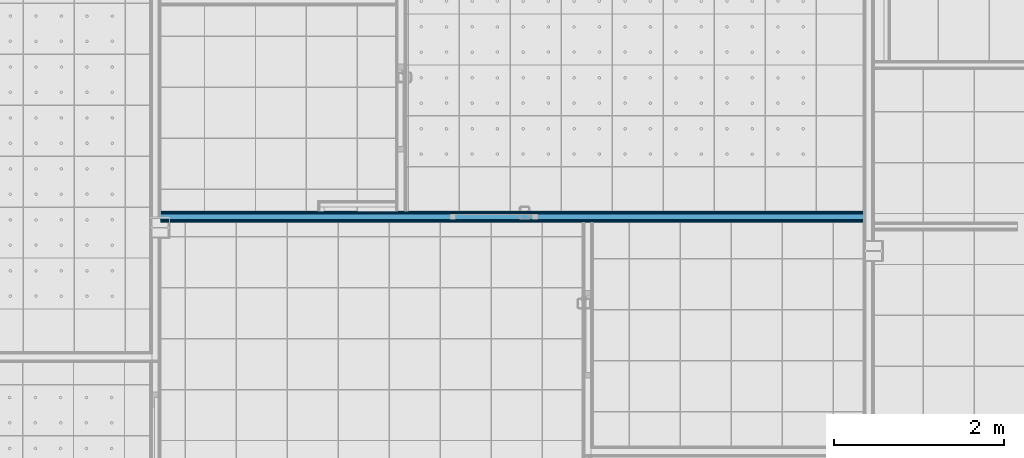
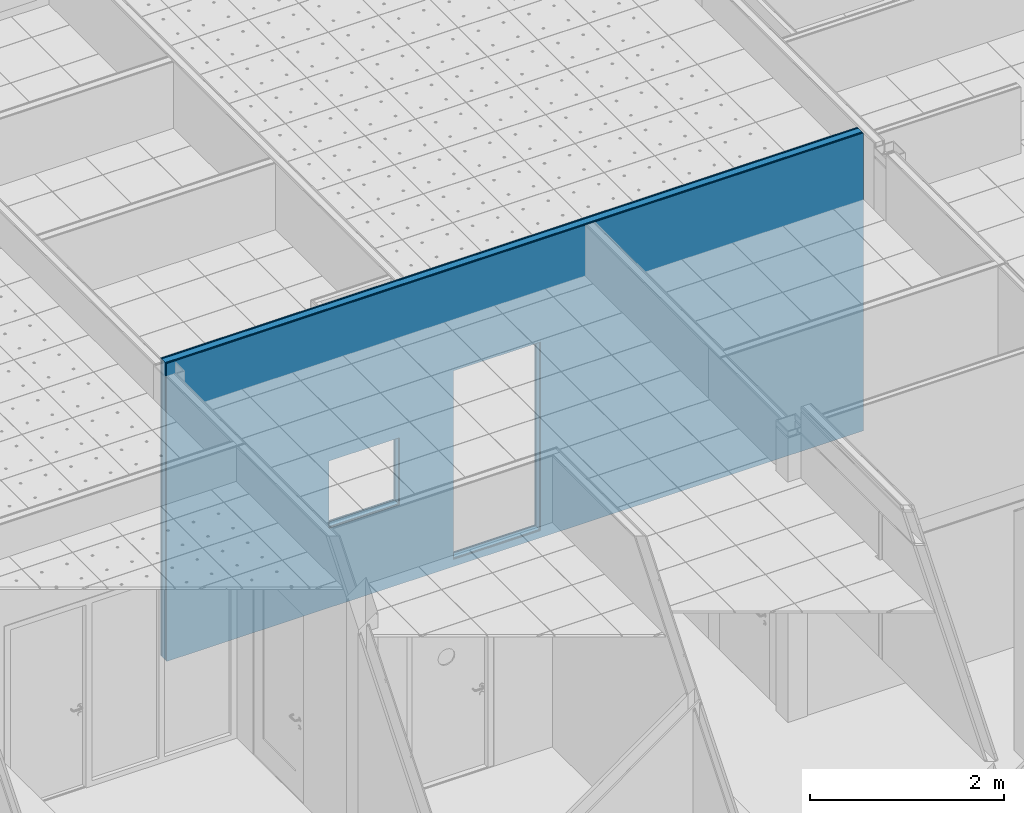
# One storey, part 54 of 338: 5 building element parts, 2 openings, 1 element without a shape of its own.
"""IFC2X3 building model written with IfcOpenShell, lengths in millimetres."""

from ifc_helpers import new_model, entity, si_unit, converted_unit, derived_unit, money_unit, direction, frame, origin_with_axes, place, context, subcontext, project, spatial, faceted_brep, material, type_object, element, aggregate, save


model = new_model("IFC2X3")

# Units and contexts
model_context = context("Model", 3, precision=0.01, world=origin_with_axes(), true_north=direction((0.0, 1.0)))
plan_context = context("Plan", 3, precision=0.01, world=origin_with_axes(), true_north=direction((0.0, 1.0)))
body_context = subcontext(model_context, "Body", "Model", "MODEL_VIEW")
ifc_project = project(units=[si_unit("LENGTHUNIT", "METRE", prefix="MILLI"), si_unit("AREAUNIT", "SQUARE_METRE"), si_unit("VOLUMEUNIT", "CUBIC_METRE"), converted_unit("PLANEANGLEUNIT", "DEGREE", entity("IfcPlaneAngleMeasure", 0.0174532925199), si_unit("PLANEANGLEUNIT", "RADIAN"), dimensions=[0, 0, 0, 0, 0, 0, 0]), money_unit("EUR"), converted_unit("TIMEUNIT", "Year", entity("IfcTimeMeasure", 31556926.0), si_unit("TIMEUNIT", "SECOND"), dimensions=[0, 0, 1, 0, 0, 0, 0]), si_unit("MASSUNIT", "GRAM", prefix="KILO"), si_unit("THERMODYNAMICTEMPERATUREUNIT", "DEGREE_CELSIUS"), si_unit("LUMINOUSINTENSITYUNIT", "LUMEN"), si_unit("ENERGYUNIT", "JOULE", prefix="MEGA"), derived_unit("THERMALCONDUCTANCEUNIT", [(si_unit("POWERUNIT", "WATT"), 1), (si_unit("LENGTHUNIT", "METRE"), -1), (si_unit("THERMODYNAMICTEMPERATUREUNIT", "KELVIN"), -1)]), derived_unit("SPECIFICHEATCAPACITYUNIT", [(si_unit("ENERGYUNIT", "JOULE"), 1), (si_unit("MASSUNIT", "GRAM", prefix="KILO"), -1), (si_unit("THERMODYNAMICTEMPERATUREUNIT", "KELVIN"), -1)]), derived_unit("MASSDENSITYUNIT", [(si_unit("MASSUNIT", "GRAM", prefix="KILO"), 1), (si_unit("VOLUMEUNIT", "CUBIC_METRE"), -1)])], contexts=[model_context, plan_context])

# Site, building, storey
site_placement = place(None, origin_with_axes())
site = spatial("IfcSite", under=ifc_project, at=site_placement, Name="Fortuinstraat Woensdrecht", CompositionType="ELEMENT")
building_placement = place(site_placement, origin_with_axes())
building = spatial("IfcBuilding", under=site, at=building_placement, Name="IKC Fortuna", CompositionType="ELEMENT")
storey_placement = place(building_placement, origin_with_axes())
storey = spatial("IfcBuildingStorey", under=building, at=storey_placement, Name="00 begane grond", CompositionType="ELEMENT", Elevation=0.0)

# Wall, openings, building element parts
wall_type = type_object("IfcWallType", Name="MS125 2.75.2A 125", PredefinedType="NOTDEFINED")
wall_placement = place(storey_placement, frame((20576.9349765, 28132.40257, -90.0), z_axis=(0.0, 0.0, 1.0), x_axis=(1.0, 0.0, 0.0)))
wall = element("IfcWall", 1, at=wall_placement, inside=storey, type_object=wall_type, Name="22_Wand_Binnenwand")
opening_1_placement = place(wall_placement, frame((3924.36208759, 0.0, 90.0), z_axis=(0.0, 0.0, 1.0), x_axis=(1.0, 0.0, 0.0)))
element("IfcOpeningElement", 2, at=opening_1_placement, cuts=wall, Name="32_Deur_h.01c", context=body_context, shape_type="Brep", body=[
    faceted_brep([(-517.0, 250.0, 2367.0), (-517.0, 250.0, 0.0), (-517.0, -125.0, 0.0), (-517.0, -125.0, 2367.0), (517.0, 250.0, 2367.0), (517.0, 250.0, 0.0), (517.0, -125.0, 0.0), (517.0, -125.0, 2367.0)], [[[0, 1, 2, 3]], [[0, 4, 5, 1]], [[1, 5, 6, 2]], [[3, 2, 6, 7]], [[4, 0, 3, 7]], [[5, 4, 7, 6]]]),
])
opening_2_placement = place(wall_placement, frame((-20576.9349765, -28132.40257, 90.0), z_axis=(0.0, 0.0, 1.0), x_axis=(1.0, 0.0, 0.0)))
element("IfcOpeningElement", 3, at=opening_2_placement, cuts=wall, Name="_Lege opening_Opening-x", context=body_context, shape_type="Brep", body=[
    faceted_brep([(22502.355011, 28007.40257, 910.0), (22502.355011, 28007.40257, 1752.0), (22502.355011, 28382.40257, 1752.0), (22502.355011, 28382.40257, 910.0), (23344.355011, 28007.40257, 910.0), (23344.355011, 28007.40257, 1752.0), (23344.355011, 28382.40257, 1752.0), (23344.355011, 28382.40257, 910.0)], [[[0, 1, 2, 3]], [[0, 4, 5, 1]], [[1, 5, 6, 2]], [[3, 2, 6, 7]], [[4, 0, 3, 7]], [[5, 4, 7, 6]]]),
])
ifc_material_1 = material(Name="Gipsplaat")
building_element_part_1_placement = place(wall_placement, origin_with_axes())
building_element_part_1 = element("IfcBuildingElementPart", 4, at=building_element_part_1_placement, material=ifc_material_1, Name="Gipsplaat", context=body_context, shape_type="Brep", body=[
    faceted_brep([(0.0, 112.5, 3740.0), (0.0, 112.5, 0.0), (8275.0, 112.5, 0.0), (8275.0, 112.5, 3740.0), (1925.42003444, 112.5, 1842.0), (2767.42003444, 112.5, 1842.0), (2767.42003444, 112.5, 1000.0), (1925.42003444, 112.5, 1000.0), (3407.36208759, 112.5, 90.0), (3407.36208759, 112.5, 2457.0), (4441.36208759, 112.5, 2457.0), (4441.36208759, 112.5, 90.0), (0.0, 125.0, 3740.0), (0.0, 125.0, 0.0), (8275.0, 125.0, 0.0), (8275.0, 125.0, 3740.0), (2767.42003444, 125.0, 1842.0), (1925.42003444, 125.0, 1842.0), (2767.42003444, 125.0, 1000.0), (1925.42003444, 125.0, 1000.0), (3407.36208759, 125.0, 90.0), (3407.36208759, 125.0, 2457.0), (4441.36208759, 125.0, 2457.0), (4441.36208759, 125.0, 90.0)], [[[0, 1, 2, 3], [4, 5, 6, 7], [8, 9, 10, 11]], [[0, 12, 13, 1]], [[1, 13, 14, 2]], [[2, 14, 15, 3]], [[12, 0, 3, 15]], [[16, 5, 4, 17]], [[18, 6, 5, 16]], [[19, 7, 6, 18]], [[17, 4, 7, 19]], [[20, 21, 9, 8]], [[21, 22, 10, 9]], [[22, 23, 11, 10]], [[23, 20, 8, 11]], [[13, 12, 15, 14], [18, 16, 17, 19], [20, 23, 22, 21]]]),
])
building_element_part_2_placement = place(wall_placement, origin_with_axes())
building_element_part_2 = element("IfcBuildingElementPart", 5, at=building_element_part_2_placement, material=ifc_material_1, Name="Gipsplaat", context=body_context, shape_type="Brep", body=[
    faceted_brep([(0.0, 100.0, 3740.0), (0.0, 100.0, 0.0), (8275.0, 100.0, 0.0), (8275.0, 100.0, 3740.0), (1925.42003444, 100.0, 1842.0), (2767.42003444, 100.0, 1842.0), (2767.42003444, 100.0, 1000.0), (1925.42003444, 100.0, 1000.0), (3407.36208759, 100.0, 90.0), (3407.36208759, 100.0, 2457.0), (4441.36208759, 100.0, 2457.0), (4441.36208759, 100.0, 90.0), (0.0, 112.5, 3740.0), (0.0, 112.5, 0.0), (8275.0, 112.5, 0.0), (8275.0, 112.5, 3740.0), (2767.42003444, 112.5, 1842.0), (1925.42003444, 112.5, 1842.0), (2767.42003444, 112.5, 1000.0), (1925.42003444, 112.5, 1000.0), (3407.36208759, 112.5, 90.0), (3407.36208759, 112.5, 2457.0), (4441.36208759, 112.5, 2457.0), (4441.36208759, 112.5, 90.0)], [[[0, 1, 2, 3], [4, 5, 6, 7], [8, 9, 10, 11]], [[0, 12, 13, 1]], [[1, 13, 14, 2]], [[2, 14, 15, 3]], [[12, 0, 3, 15]], [[16, 5, 4, 17]], [[18, 6, 5, 16]], [[19, 7, 6, 18]], [[17, 4, 7, 19]], [[20, 21, 9, 8]], [[21, 22, 10, 9]], [[22, 23, 11, 10]], [[23, 20, 8, 11]], [[13, 12, 15, 14], [18, 16, 17, 19], [20, 23, 22, 21]]]),
])
ifc_material_2 = material(Name="Isolatie - Steenwol LSW")
building_element_part_3_placement = place(wall_placement, origin_with_axes())
building_element_part_3 = element("IfcBuildingElementPart", 6, at=building_element_part_3_placement, material=ifc_material_2, Name="Isolatie - Steenwol LSW", context=body_context, shape_type="Brep", body=[
    faceted_brep([(0.0, 25.0, 3740.0), (0.0, 25.0, 0.0), (8275.0, 25.0, 0.0), (8275.0, 25.0, 3740.0), (1925.42003444, 25.0, 1842.0), (2767.42003444, 25.0, 1842.0), (2767.42003444, 25.0, 1000.0), (1925.42003444, 25.0, 1000.0), (3407.36208759, 25.0, 90.0), (3407.36208759, 25.0, 2457.0), (4441.36208759, 25.0, 2457.0), (4441.36208759, 25.0, 90.0), (0.0, 100.0, 3740.0), (0.0, 100.0, 0.0), (8275.0, 100.0, 0.0), (8275.0, 100.0, 3740.0), (2767.42003444, 100.0, 1842.0), (1925.42003444, 100.0, 1842.0), (2767.42003444, 100.0, 1000.0), (1925.42003444, 100.0, 1000.0), (3407.36208759, 100.0, 90.0), (3407.36208759, 100.0, 2457.0), (4441.36208759, 100.0, 2457.0), (4441.36208759, 100.0, 90.0)], [[[0, 1, 2, 3], [4, 5, 6, 7], [8, 9, 10, 11]], [[0, 12, 13, 1]], [[1, 13, 14, 2]], [[2, 14, 15, 3]], [[12, 0, 3, 15]], [[16, 5, 4, 17]], [[18, 6, 5, 16]], [[19, 7, 6, 18]], [[17, 4, 7, 19]], [[20, 21, 9, 8]], [[21, 22, 10, 9]], [[22, 23, 11, 10]], [[23, 20, 8, 11]], [[13, 12, 15, 14], [18, 16, 17, 19], [20, 23, 22, 21]]]),
])
building_element_part_4_placement = place(wall_placement, origin_with_axes())
building_element_part_4 = element("IfcBuildingElementPart", 7, at=building_element_part_4_placement, material=ifc_material_1, Name="Gipsplaat", context=body_context, shape_type="Brep", body=[
    faceted_brep([(0.0, 12.5, 3740.0), (0.0, 12.5, 0.0), (8275.0, 12.5, 0.0), (8275.0, 12.5, 3740.0), (1925.42003444, 12.5, 1842.0), (2767.42003444, 12.5, 1842.0), (2767.42003444, 12.5, 1000.0), (1925.42003444, 12.5, 1000.0), (3407.36208759, 12.5, 90.0), (3407.36208759, 12.5, 2457.0), (4441.36208759, 12.5, 2457.0), (4441.36208759, 12.5, 90.0), (0.0, 25.0, 3740.0), (0.0, 25.0, 0.0), (8275.0, 25.0, 0.0), (8275.0, 25.0, 3740.0), (2767.42003444, 25.0, 1842.0), (1925.42003444, 25.0, 1842.0), (2767.42003444, 25.0, 1000.0), (1925.42003444, 25.0, 1000.0), (3407.36208759, 25.0, 90.0), (3407.36208759, 25.0, 2457.0), (4441.36208759, 25.0, 2457.0), (4441.36208759, 25.0, 90.0)], [[[0, 1, 2, 3], [4, 5, 6, 7], [8, 9, 10, 11]], [[0, 12, 13, 1]], [[1, 13, 14, 2]], [[2, 14, 15, 3]], [[12, 0, 3, 15]], [[16, 5, 4, 17]], [[18, 6, 5, 16]], [[19, 7, 6, 18]], [[17, 4, 7, 19]], [[20, 21, 9, 8]], [[21, 22, 10, 9]], [[22, 23, 11, 10]], [[23, 20, 8, 11]], [[13, 12, 15, 14], [18, 16, 17, 19], [20, 23, 22, 21]]]),
])
building_element_part_5_placement = place(wall_placement, origin_with_axes())
building_element_part_5 = element("IfcBuildingElementPart", 8, at=building_element_part_5_placement, material=ifc_material_1, Name="Gipsplaat", context=body_context, shape_type="Brep", body=[
    faceted_brep([(0.0, 0.0, 3740.0), (0.0, 0.0, 0.0), (8275.0, 0.0, 0.0), (8275.0, 0.0, 3740.0), (1925.42003444, 0.0, 1842.0), (2767.42003444, 0.0, 1842.0), (2767.42003444, 0.0, 1000.0), (1925.42003444, 0.0, 1000.0), (3407.36208759, 0.0, 90.0), (3407.36208759, 0.0, 2457.0), (4441.36208759, 0.0, 2457.0), (4441.36208759, 0.0, 90.0), (0.0, 12.5, 3740.0), (0.0, 12.5, 0.0), (8275.0, 12.5, 0.0), (8275.0, 12.5, 3740.0), (2767.42003444, 12.5, 1842.0), (1925.42003444, 12.5, 1842.0), (2767.42003444, 12.5, 1000.0), (1925.42003444, 12.5, 1000.0), (3407.36208759, 12.5, 90.0), (3407.36208759, 12.5, 2457.0), (4441.36208759, 12.5, 2457.0), (4441.36208759, 12.5, 90.0)], [[[0, 1, 2, 3], [4, 5, 6, 7], [8, 9, 10, 11]], [[0, 12, 13, 1]], [[1, 13, 14, 2]], [[2, 14, 15, 3]], [[12, 0, 3, 15]], [[16, 5, 4, 17]], [[18, 6, 5, 16]], [[19, 7, 6, 18]], [[17, 4, 7, 19]], [[20, 21, 9, 8]], [[21, 22, 10, 9]], [[22, 23, 11, 10]], [[23, 20, 8, 11]], [[13, 12, 15, 14], [18, 16, 17, 19], [20, 23, 22, 21]]]),
])
aggregate(wall, [building_element_part_1, building_element_part_2, building_element_part_3, building_element_part_4, building_element_part_5])

save(model, "model.ifc")
